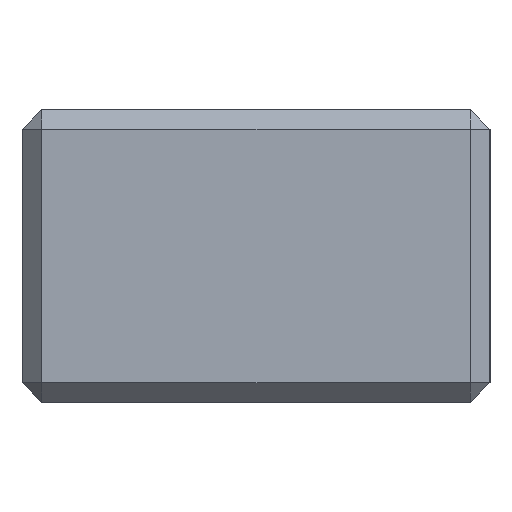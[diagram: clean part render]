
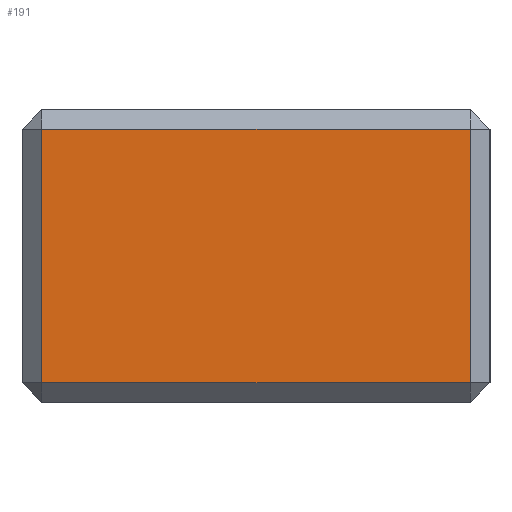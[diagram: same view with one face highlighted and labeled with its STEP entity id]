
A CAD part, left-side view. The second image highlights one B-rep face of the part: STEP entity #191.
In plain terms, the highlighted planar face has unit normal (-1, 0, 0).
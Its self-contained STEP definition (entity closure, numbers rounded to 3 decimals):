
#27 = ORIENTED_EDGE ( 'NONE', *, *, #284, .T. ) ;
#150 = CARTESIAN_POINT ( 'NONE',  ( -12., 5.5, 0.5 ) ) ;
#191 = ADVANCED_FACE ( 'NONE', ( #704 ), #2925, .F. ) ;
#197 = EDGE_LOOP ( 'NONE', ( #2082, #1023, #2709, #27 ) ) ;
#202 = LINE ( 'NONE', #2412, #391 ) ;
#225 = DIRECTION ( 'NONE',  ( 0., 1., 0. ) ) ;
#284 = EDGE_CURVE ( 'NONE', #2481, #931, #2080, .T. ) ;
#352 = AXIS2_PLACEMENT_3D ( 'NONE', #2716, #2001, #2489 ) ;
#391 = VECTOR ( 'NONE', #1233, 1000. ) ;
#629 = CARTESIAN_POINT ( 'NONE',  ( -12., -5.5, 7. ) ) ;
#704 = FACE_OUTER_BOUND ( 'NONE', #197, .T. ) ;
#892 = DIRECTION ( 'NONE',  ( 0., 0., 1. ) ) ;
#931 = VERTEX_POINT ( 'NONE', #2732 ) ;
#1023 = ORIENTED_EDGE ( 'NONE', *, *, #2837, .T. ) ;
#1034 = VECTOR ( 'NONE', #1378, 1000. ) ;
#1052 = EDGE_CURVE ( 'NONE', #931, #2004, #1213, .T. ) ;
#1213 = LINE ( 'NONE', #1387, #1034 ) ;
#1233 = DIRECTION ( 'NONE',  ( 0., -1., 0. ) ) ;
#1378 = DIRECTION ( 'NONE',  ( 0., 0., -1. ) ) ;
#1387 = CARTESIAN_POINT ( 'NONE',  ( -12., 5.5, 4.5 ) ) ;
#1488 = VECTOR ( 'NONE', #225, 1000. ) ;
#1626 = VECTOR ( 'NONE', #892, 1000. ) ;
#1661 = EDGE_CURVE ( 'NONE', #2064, #2481, #2715, .T. ) ;
#1795 = CARTESIAN_POINT ( 'NONE',  ( -12., -5.5, 0.5 ) ) ;
#1853 = CARTESIAN_POINT ( 'NONE',  ( -12., 6., 7. ) ) ;
#2001 = DIRECTION ( 'NONE',  ( 1., 0., 0. ) ) ;
#2004 = VERTEX_POINT ( 'NONE', #150 ) ;
#2064 = VERTEX_POINT ( 'NONE', #1795 ) ;
#2080 = LINE ( 'NONE', #1853, #1488 ) ;
#2082 = ORIENTED_EDGE ( 'NONE', *, *, #1052, .T. ) ;
#2087 = CARTESIAN_POINT ( 'NONE',  ( -12., -5.5, 4.5 ) ) ;
#2412 = CARTESIAN_POINT ( 'NONE',  ( -12., 6., 0.5 ) ) ;
#2481 = VERTEX_POINT ( 'NONE', #629 ) ;
#2489 = DIRECTION ( 'NONE',  ( 0., 0., -1. ) ) ;
#2709 = ORIENTED_EDGE ( 'NONE', *, *, #1661, .T. ) ;
#2715 = LINE ( 'NONE', #2087, #1626 ) ;
#2716 = CARTESIAN_POINT ( 'NONE',  ( -12., 6., 4.5 ) ) ;
#2732 = CARTESIAN_POINT ( 'NONE',  ( -12., 5.5, 7. ) ) ;
#2837 = EDGE_CURVE ( 'NONE', #2004, #2064, #202, .T. ) ;
#2925 = PLANE ( 'NONE',  #352 ) ;
